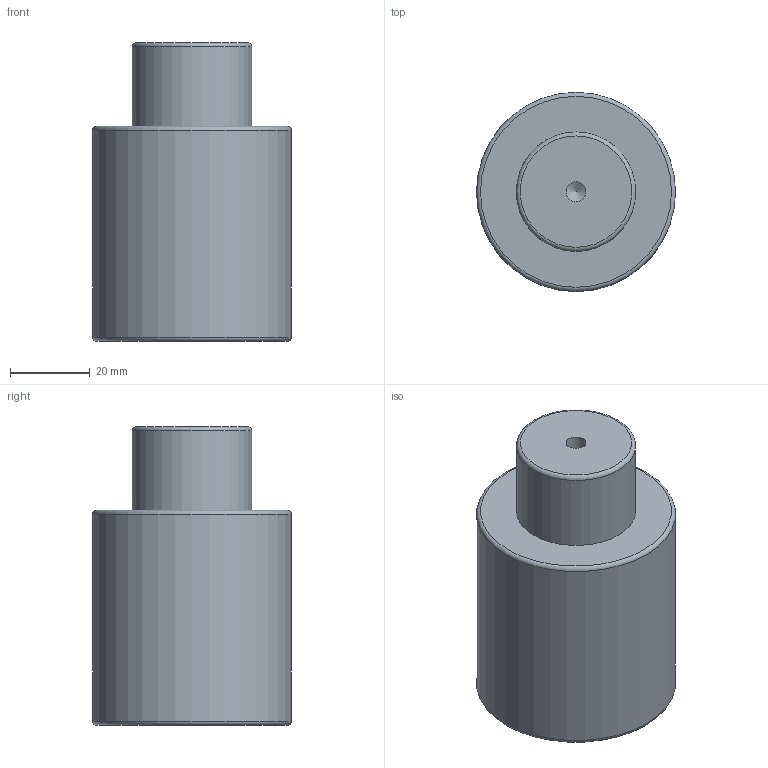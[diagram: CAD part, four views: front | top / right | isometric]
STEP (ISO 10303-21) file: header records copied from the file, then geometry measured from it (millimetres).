
FILE_DESCRIPTION(/* description */ (''),/* implementation_level */ '2;1');
FILE_NAME(/* name */ 'NV5-SMLX.50x20.stp',/* time_stamp */ '2018-08-31T16:08:34+02:00',/* author */ (''),/* organization */ (''),/* preprocessor_version */ 'ST-DEVELOPER v16',/* originating_system */ 'SIEMENS PLM Software NX 10.0',/* authorisation */ '');
FILE_SCHEMA (('AUTOMOTIVE_DESIGN { 1 0 10303 214 3 1 1 1 }'));
Length unit declared in the file: millimetre
Products named in the file (1): NV5-SMLX.50x20
Bounding box: 50 x 50 x 75 mm (x, y, z)
Volume: 119547.3 mm3; surface area: 14851.3 mm2
Topology: 1 solids, 1 shells, 12 faces, 24 edges, 15 vertices
Faces by surface type: cylinder 4, torus 3, plane 3, cone 2
Full cylindrical faces by diameter (mm): 5 x1, 8.5 x1, 30 x1, 50 x1
Entity records: 266 total; most frequent: DIRECTION 48, CARTESIAN_POINT 37, FACE_BOUND 24, AXIS2_PLACEMENT_3D 24, EDGE_LOOP 22, ORIENTED_EDGE 22, VERTEX_POINT 13, ADVANCED_FACE 12
